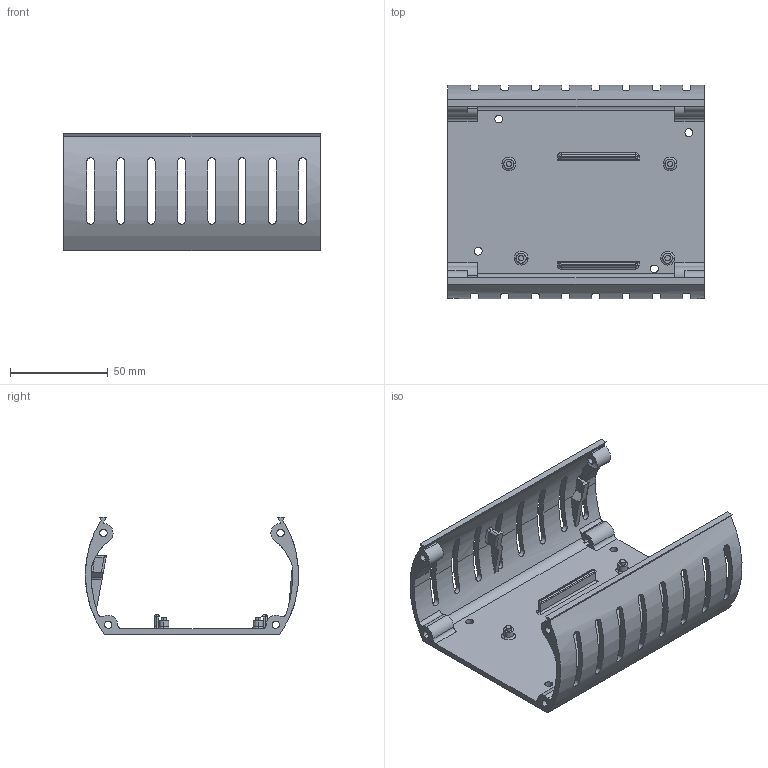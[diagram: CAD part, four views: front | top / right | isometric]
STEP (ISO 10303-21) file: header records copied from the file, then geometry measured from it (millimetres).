
FILE_DESCRIPTION (( 'STEP AP214' ), '1' );
FILE_NAME ('Housing.STEP', '2019-01-10T18:28:57', ( '' ), ( '' ), 'SwSTEP 2.0', 'SolidWorks 2017', '' );
FILE_SCHEMA (( 'AUTOMOTIVE_DESIGN' ));
Length unit declared in the file: millimetre
Products named in the file (1): Housing
Bounding box: 131.21 x 109.11 x 60 mm (x, y, z)
Volume: 77792.6 mm3; surface area: 61216.5 mm2
Topology: 1 solids, 1 shells, 255 faces, 762 edges, 492 vertices
Faces by surface type: cylinder 145, plane 89, torus 14, sphere 4, bspline 3
Entity records: 10687 total; most frequent: CARTESIAN_POINT 3668, ORIENTED_EDGE 1516, DIRECTION 1488, EDGE_CURVE 758, AXIS2_PLACEMENT_3D 592, VERTEX_POINT 492, CIRCLE 339, VECTOR 304
